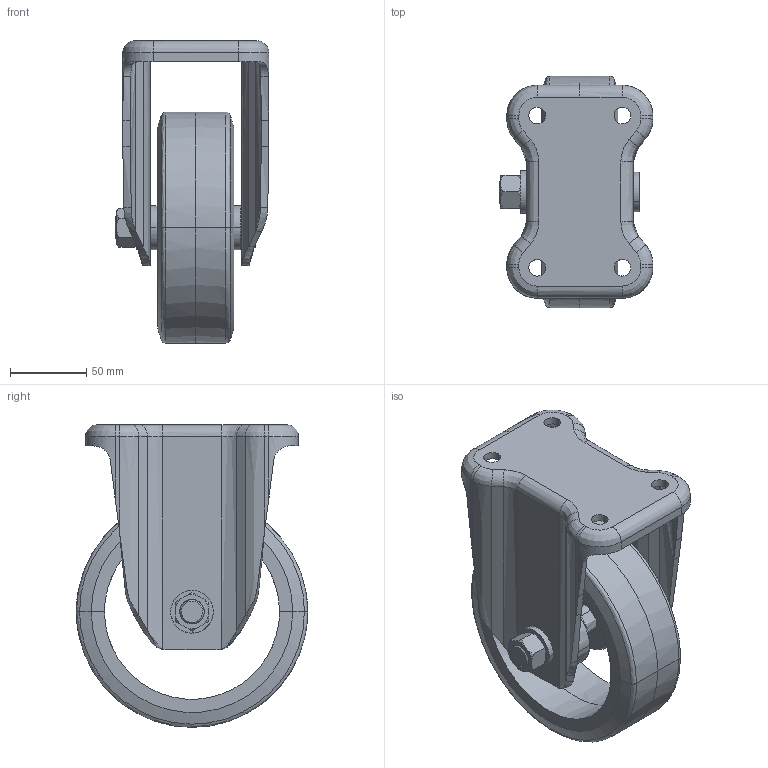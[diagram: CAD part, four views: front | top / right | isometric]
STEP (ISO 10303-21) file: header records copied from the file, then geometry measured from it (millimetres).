
FILE_DESCRIPTION (( 'STEP AP214' ), '1' );
FILE_NAME ('HP-150WK.STEP', '2023-06-28T06:36:54', ( 'sakai' ), ( 'Hewlett-Packard' ), 'SwSTEP 2.0', 'SolidWorks 2010', '' );
FILE_SCHEMA (( 'AUTOMOTIVE_DESIGN' ));
Length unit declared in the file: millimetre
Products named in the file (5): HP-150WK; HP-150WK-ALL-3; HP-150WK-ALL-2; HP-150WK-ALL-1; Part37
Assembly tree (4 placements, depth 2):
  HP-150WK
    HP-150WK-ALL-3
    Part37
    HP-150WK-ALL-2
    HP-150WK-ALL-1
Bounding box: 101 x 152 x 199 mm (x, y, z)
Volume: 384673.7 mm3; surface area: 161391.1 mm2
Topology: 3 solids, 7 shells, 254 faces, 918 edges, 669 vertices
Faces by surface type: bspline 188, plane 66
Entity records: 47173 total; most frequent: CARTESIAN_POINT 39981, ORIENTED_EDGE 1719, EDGE_CURVE 918, B_SPLINE_CURVE_WITH_KNOTS 689, VERTEX_POINT 669, DIRECTION 377, EDGE_LOOP 271, FACE_OUTER_BOUND 254
